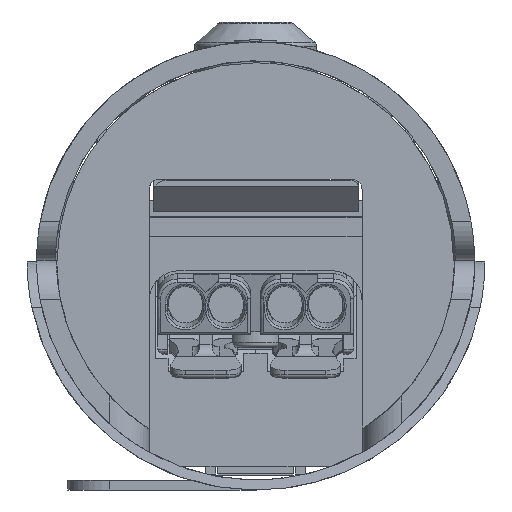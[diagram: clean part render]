
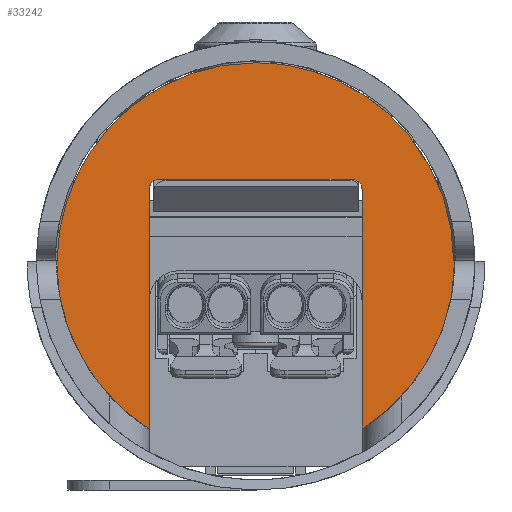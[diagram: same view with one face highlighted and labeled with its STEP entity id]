
A CAD part, left-side view. The second image highlights one B-rep face of the part: STEP entity #33242.
In plain terms, the highlighted planar face has unit normal (-1, 0, 0.009).
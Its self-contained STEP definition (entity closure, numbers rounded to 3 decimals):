
#8245=ORIENTED_EDGE('',*,*,#17357,.T.);
#8246=ORIENTED_EDGE('',*,*,#17358,.T.);
#8247=ORIENTED_EDGE('',*,*,#17359,.T.);
#8248=ORIENTED_EDGE('',*,*,#17360,.F.);
#8249=ORIENTED_EDGE('',*,*,#17361,.T.);
#8250=ORIENTED_EDGE('',*,*,#17362,.T.);
#8251=ORIENTED_EDGE('',*,*,#17363,.F.);
#8252=ORIENTED_EDGE('',*,*,#17364,.F.);
#8253=ORIENTED_EDGE('',*,*,#17365,.F.);
#8254=ORIENTED_EDGE('',*,*,#17366,.T.);
#8255=ORIENTED_EDGE('',*,*,#17339,.F.);
#8256=ORIENTED_EDGE('',*,*,#17367,.T.);
#17339=EDGE_CURVE('',#23004,#23005,#27179,.T.);
#17357=EDGE_CURVE('',#23015,#23016,#27197,.T.);
#17358=EDGE_CURVE('',#23016,#23017,#27198,.T.);
#17359=EDGE_CURVE('',#23017,#23018,#27199,.T.);
#17360=EDGE_CURVE('',#23019,#23018,#27200,.F.);
#17361=EDGE_CURVE('',#23019,#23020,#27201,.T.);
#17362=EDGE_CURVE('',#23020,#23021,#27202,.T.);
#17363=EDGE_CURVE('',#23022,#23021,#27203,.F.);
#17364=EDGE_CURVE('',#23023,#23022,#27204,.F.);
#17365=EDGE_CURVE('',#23024,#23023,#27205,.F.);
#17366=EDGE_CURVE('',#23024,#23005,#27206,.T.);
#17367=EDGE_CURVE('',#23004,#23015,#27207,.T.);
#23004=VERTEX_POINT('',#47737);
#23005=VERTEX_POINT('',#47742);
#23015=VERTEX_POINT('',#47830);
#23016=VERTEX_POINT('',#47831);
#23017=VERTEX_POINT('',#47836);
#23018=VERTEX_POINT('',#47841);
#23019=VERTEX_POINT('',#47846);
#23020=VERTEX_POINT('',#47856);
#23021=VERTEX_POINT('',#47861);
#23022=VERTEX_POINT('',#47879);
#23023=VERTEX_POINT('',#47897);
#23024=VERTEX_POINT('',#47902);
#27179=B_SPLINE_CURVE_WITH_KNOTS('',3,(#47738,#47739,#47740,#47741),
 .UNSPECIFIED.,.F.,.F.,(4,4),(0.,1.),.UNSPECIFIED.);
#27197=B_SPLINE_CURVE_WITH_KNOTS('',3,(#47826,#47827,#47828,#47829),
 .UNSPECIFIED.,.F.,.F.,(4,4),(0.,1.),.UNSPECIFIED.);
#27198=B_SPLINE_CURVE_WITH_KNOTS('',3,(#47832,#47833,#47834,#47835),
 .UNSPECIFIED.,.F.,.F.,(4,4),(0.,1.),.UNSPECIFIED.);
#27199=B_SPLINE_CURVE_WITH_KNOTS('',3,(#47837,#47838,#47839,#47840),
 .UNSPECIFIED.,.F.,.F.,(4,4),(0.,1.),.UNSPECIFIED.);
#27200=B_SPLINE_CURVE_WITH_KNOTS('',3,(#47842,#47843,#47844,#47845),
 .UNSPECIFIED.,.F.,.F.,(4,4),(0.,1.),.UNSPECIFIED.);
#27201=B_SPLINE_CURVE_WITH_KNOTS('',3,(#47847,#47848,#47849,#47850,#47851,
#47852,#47853,#47854,#47855),.UNSPECIFIED.,.F.,.F.,(4,1,1,1,1,1,4),(0.,
0.25,0.375,0.5,0.625,0.75,1.),.UNSPECIFIED.);
#27202=B_SPLINE_CURVE_WITH_KNOTS('',3,(#47857,#47858,#47859,#47860),
 .UNSPECIFIED.,.F.,.F.,(4,4),(0.,1.),.UNSPECIFIED.);
#27203=B_SPLINE_CURVE_WITH_KNOTS('',3,(#47862,#47863,#47864,#47865,#47866,
#47867,#47868,#47869,#47870,#47871,#47872,#47873,#47874,#47875,#47876,#47877,
#47878),.UNSPECIFIED.,.F.,.F.,(4,1,1,1,1,1,1,1,1,1,1,1,1,1,4),(0.,0.125,
0.188,0.25,0.313,0.375,0.438,0.5,0.563,0.625,0.688,0.75,0.813,0.875,
1.),.UNSPECIFIED.);
#27204=B_SPLINE_CURVE_WITH_KNOTS('',3,(#47880,#47881,#47882,#47883,#47884,
#47885,#47886,#47887,#47888,#47889,#47890,#47891,#47892,#47893,#47894,#47895,
#47896),.UNSPECIFIED.,.F.,.F.,(4,1,1,1,1,1,1,1,1,1,1,1,1,1,4),(0.,0.125,
0.188,0.25,0.313,0.375,0.438,0.5,0.563,0.625,0.688,0.75,0.813,0.875,
1.),.UNSPECIFIED.);
#27205=B_SPLINE_CURVE_WITH_KNOTS('',3,(#47898,#47899,#47900,#47901),
 .UNSPECIFIED.,.F.,.F.,(4,4),(0.,1.),.UNSPECIFIED.);
#27206=B_SPLINE_CURVE_WITH_KNOTS('',3,(#47903,#47904,#47905,#47906,#47907,
#47908,#47909,#47910,#47911),.UNSPECIFIED.,.F.,.F.,(4,1,1,1,1,1,4),(0.,
0.25,0.375,0.5,0.625,0.75,1.),.UNSPECIFIED.);
#27207=B_SPLINE_CURVE_WITH_KNOTS('',3,(#47912,#47913,#47914,#47915),
 .UNSPECIFIED.,.F.,.F.,(4,4),(0.,1.),.UNSPECIFIED.);
#28733=EDGE_LOOP('',(#8245,#8246,#8247,#8248,#8249,#8250,#8251,#8252,#8253,
#8254,#8255,#8256));
#30405=FACE_BOUND('',#28733,.T.);
#32075=PLANE('',#38441);
#33242=ADVANCED_FACE('',(#30405),#32075,.T.);
#38441=AXIS2_PLACEMENT_3D('',#47825,#40234,#40235);
#40234=DIRECTION('',(-1.,0.,0.009));
#40235=DIRECTION('',(-0.009,0.,-1.));
#47737=CARTESIAN_POINT('',(490.114,23.196,1.151));
#47738=CARTESIAN_POINT('',(490.114,23.196,1.151));
#47739=CARTESIAN_POINT('',(490.044,23.196,-6.881));
#47740=CARTESIAN_POINT('',(489.974,23.196,-14.914));
#47741=CARTESIAN_POINT('',(489.904,23.196,-22.946));
#47742=CARTESIAN_POINT('',(489.904,23.196,-22.946));
#47825=CARTESIAN_POINT('',(489.872,10.484,-26.638));
#47826=CARTESIAN_POINT('',(490.123,22.196,2.151));
#47827=CARTESIAN_POINT('',(490.123,18.963,2.151));
#47828=CARTESIAN_POINT('',(490.123,15.729,2.151));
#47829=CARTESIAN_POINT('',(490.123,12.496,2.151));
#47830=CARTESIAN_POINT('',(490.123,22.196,2.151));
#47831=CARTESIAN_POINT('',(490.123,12.496,2.151));
#47832=CARTESIAN_POINT('',(490.123,12.496,2.151));
#47833=CARTESIAN_POINT('',(490.123,9.263,2.151));
#47834=CARTESIAN_POINT('',(490.123,6.029,2.151));
#47835=CARTESIAN_POINT('',(490.123,2.796,2.151));
#47836=CARTESIAN_POINT('',(490.123,2.796,2.151));
#47837=CARTESIAN_POINT('',(490.123,2.796,2.151));
#47838=CARTESIAN_POINT('',(490.123,2.246,2.151));
#47839=CARTESIAN_POINT('',(490.119,1.796,1.706));
#47840=CARTESIAN_POINT('',(490.114,1.796,1.151));
#47841=CARTESIAN_POINT('',(490.114,1.796,1.151));
#47842=CARTESIAN_POINT('',(490.114,1.796,1.151));
#47843=CARTESIAN_POINT('',(490.044,1.796,-6.881));
#47844=CARTESIAN_POINT('',(489.974,1.796,-14.914));
#47845=CARTESIAN_POINT('',(489.904,1.796,-22.946));
#47846=CARTESIAN_POINT('',(489.904,1.796,-22.946));
#47847=CARTESIAN_POINT('',(489.904,1.796,-22.946));
#47848=CARTESIAN_POINT('',(489.912,0.348,-22.029));
#47849=CARTESIAN_POINT('',(489.926,-1.591,-20.433));
#47850=CARTESIAN_POINT('',(489.948,-3.707,-17.874));
#47851=CARTESIAN_POINT('',(489.967,-5.071,-15.717));
#47852=CARTESIAN_POINT('',(489.987,-6.163,-13.411));
#47853=CARTESIAN_POINT('',(490.015,-7.193,-10.255));
#47854=CARTESIAN_POINT('',(490.036,-7.504,-7.762));
#47855=CARTESIAN_POINT('',(490.051,-7.504,-6.049));
#47856=CARTESIAN_POINT('',(490.051,-7.504,-6.049));
#47857=CARTESIAN_POINT('',(490.051,-7.504,-6.049));
#47858=CARTESIAN_POINT('',(490.051,-7.471,-6.049));
#47859=CARTESIAN_POINT('',(490.051,-7.437,-6.049));
#47860=CARTESIAN_POINT('',(490.051,-7.404,-6.049));
#47861=CARTESIAN_POINT('',(490.051,-7.404,-6.049));
#47862=CARTESIAN_POINT('',(490.051,-7.404,-6.049));
#47863=CARTESIAN_POINT('',(490.062,-7.404,-4.779));
#47864=CARTESIAN_POINT('',(490.079,-7.231,-2.915));
#47865=CARTESIAN_POINT('',(490.1,-6.644,-0.487));
#47866=CARTESIAN_POINT('',(490.115,-6.049,1.257));
#47867=CARTESIAN_POINT('',(490.131,-5.203,3.117));
#47868=CARTESIAN_POINT('',(490.146,-4.189,4.846));
#47869=CARTESIAN_POINT('',(490.161,-2.961,6.538));
#47870=CARTESIAN_POINT('',(490.174,-1.6,8.047));
#47871=CARTESIAN_POINT('',(490.186,-0.092,9.409));
#47872=CARTESIAN_POINT('',(490.197,1.598,10.636));
#47873=CARTESIAN_POINT('',(490.206,3.325,11.649));
#47874=CARTESIAN_POINT('',(490.213,5.191,12.496));
#47875=CARTESIAN_POINT('',(490.218,6.936,13.091));
#47876=CARTESIAN_POINT('',(490.223,9.365,13.679));
#47877=CARTESIAN_POINT('',(490.225,11.228,13.851));
#47878=CARTESIAN_POINT('',(490.225,12.496,13.851));
#47879=CARTESIAN_POINT('',(490.225,12.496,13.851));
#47880=CARTESIAN_POINT('',(490.225,12.496,13.851));
#47881=CARTESIAN_POINT('',(490.225,13.763,13.851));
#47882=CARTESIAN_POINT('',(490.223,15.626,13.678));
#47883=CARTESIAN_POINT('',(490.218,18.055,13.091));
#47884=CARTESIAN_POINT('',(490.213,19.801,12.496));
#47885=CARTESIAN_POINT('',(490.206,21.665,11.65));
#47886=CARTESIAN_POINT('',(490.197,23.395,10.636));
#47887=CARTESIAN_POINT('',(490.186,25.083,9.41));
#47888=CARTESIAN_POINT('',(490.174,26.592,8.047));
#47889=CARTESIAN_POINT('',(490.161,27.952,6.538));
#47890=CARTESIAN_POINT('',(490.146,29.181,4.845));
#47891=CARTESIAN_POINT('',(490.131,30.194,3.118));
#47892=CARTESIAN_POINT('',(490.115,31.041,1.256));
#47893=CARTESIAN_POINT('',(490.1,31.636,-0.486));
#47894=CARTESIAN_POINT('',(490.079,32.223,-2.914));
#47895=CARTESIAN_POINT('',(490.062,32.396,-4.778));
#47896=CARTESIAN_POINT('',(490.051,32.396,-6.049));
#47897=CARTESIAN_POINT('',(490.051,32.396,-6.049));
#47898=CARTESIAN_POINT('',(490.051,32.396,-6.049));
#47899=CARTESIAN_POINT('',(490.051,32.429,-6.049));
#47900=CARTESIAN_POINT('',(490.051,32.463,-6.049));
#47901=CARTESIAN_POINT('',(490.051,32.496,-6.049));
#47902=CARTESIAN_POINT('',(490.051,32.496,-6.049));
#47903=CARTESIAN_POINT('',(490.051,32.496,-6.049));
#47904=CARTESIAN_POINT('',(490.036,32.496,-7.762));
#47905=CARTESIAN_POINT('',(490.015,32.185,-10.254));
#47906=CARTESIAN_POINT('',(489.987,31.155,-13.411));
#47907=CARTESIAN_POINT('',(489.967,30.062,-15.717));
#47908=CARTESIAN_POINT('',(489.948,28.699,-17.874));
#47909=CARTESIAN_POINT('',(489.926,26.583,-20.433));
#47910=CARTESIAN_POINT('',(489.912,24.644,-22.029));
#47911=CARTESIAN_POINT('',(489.904,23.196,-22.946));
#47912=CARTESIAN_POINT('',(490.114,23.196,1.151));
#47913=CARTESIAN_POINT('',(490.119,23.196,1.701));
#47914=CARTESIAN_POINT('',(490.123,22.75,2.151));
#47915=CARTESIAN_POINT('',(490.123,22.196,2.151));
